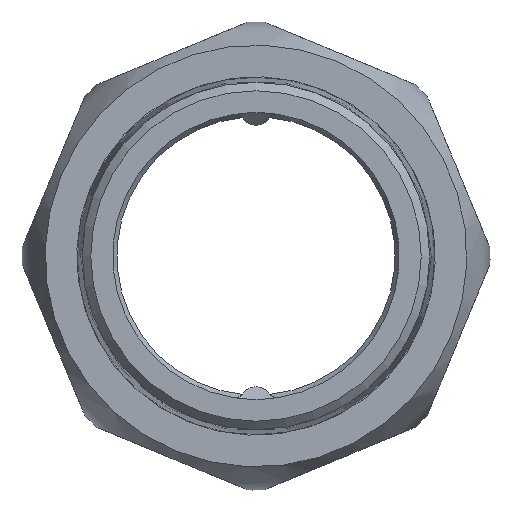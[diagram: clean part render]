
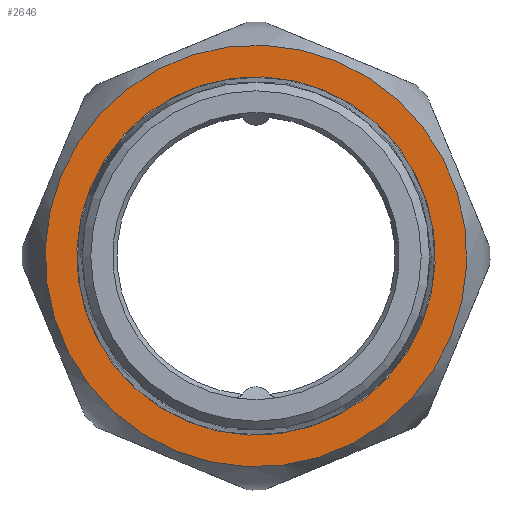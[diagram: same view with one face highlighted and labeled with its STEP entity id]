
A CAD part, left-side view. The second image highlights one B-rep face of the part: STEP entity #2646.
In plain terms, the highlighted planar face has unit normal (-1, 0, 0) as drawn and (1, 0, 0) by its records, which use the part's own axes.
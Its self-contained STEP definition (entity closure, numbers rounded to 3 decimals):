
#2612=CARTESIAN_POINT('',(19.,25.0,0.0));
#2613=VERTEX_POINT('',#2612);
#2614=CARTESIAN_POINT('',(19.,0.0,0.0));
#2615=DIRECTION('',(1.0,0.0,0.0));
#2616=DIRECTION('',(0.0,1.0,0.0));
#2617=AXIS2_PLACEMENT_3D('',#2614,#2615,#2616);
#2618=CIRCLE('',#2617,25.0);
#2619=EDGE_CURVE('',#2613,#2613,#2618,.T.);
#2627=CARTESIAN_POINT('',(19.,23.125,0.0));
#2628=DIRECTION('',(1.0,0.0,0.0));
#2629=DIRECTION('',(0.0,0.0,-1.0));
#2630=AXIS2_PLACEMENT_3D('',#2627,#2628,#2629);
#2631=PLANE('',#2630);
#2632=ORIENTED_EDGE('',*,*,#2619,.T.);
#2633=EDGE_LOOP('',(#2632));
#2634=FACE_OUTER_BOUND('',#2633,.T.);
#2635=CARTESIAN_POINT('',(19.,21.25,0.0));
#2636=VERTEX_POINT('',#2635);
#2637=CARTESIAN_POINT('',(19.,0.0,0.0));
#2638=DIRECTION('',(1.0,0.0,0.0));
#2639=DIRECTION('',(0.0,1.0,0.0));
#2640=AXIS2_PLACEMENT_3D('',#2637,#2638,#2639);
#2641=CIRCLE('',#2640,21.25);
#2642=EDGE_CURVE('',#2636,#2636,#2641,.T.);
#2643=ORIENTED_EDGE('',*,*,#2642,.F.);
#2644=EDGE_LOOP('',(#2643));
#2645=FACE_BOUND('',#2644,.T.);
#2646=ADVANCED_FACE('',(#2634,#2645),#2631,.T.);
